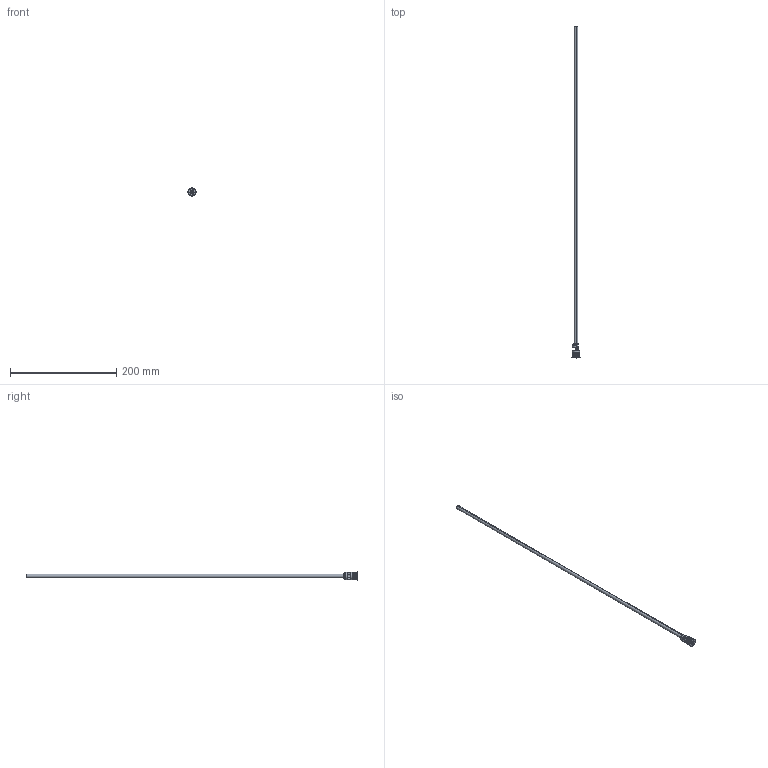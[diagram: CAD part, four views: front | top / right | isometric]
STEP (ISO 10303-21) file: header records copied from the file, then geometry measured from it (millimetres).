
FILE_DESCRIPTION (( 'STEP AP203' ), '1' );
FILE_NAME ('RF-14Fx600.STEP', '2015-11-20T10:30:24', ( 'Balzi' ), ( '' ), 'SwSTEP 2.0', 'SolidWorks 2015', '' );
FILE_SCHEMA (( 'CONFIG_CONTROL_DESIGN' ));
Length unit declared in the file: millimetre
Products named in the file (1): RF-14Fx600
Bounding box: 15.3 x 624.5 x 15.3 mm (x, y, z)
Volume: 8677.1 mm3; surface area: 26454.2 mm2
Topology: 1 solids, 1 shells, 71 faces, 164 edges, 102 vertices
Faces by surface type: cylinder 26, plane 25, cone 12, torus 8
Entity records: 2114 total; most frequent: DIRECTION 385, CARTESIAN_POINT 357, ORIENTED_EDGE 328, EDGE_CURVE 164, AXIS2_PLACEMENT_3D 154, VERTEX_POINT 102, CIRCLE 82, EDGE_LOOP 80
